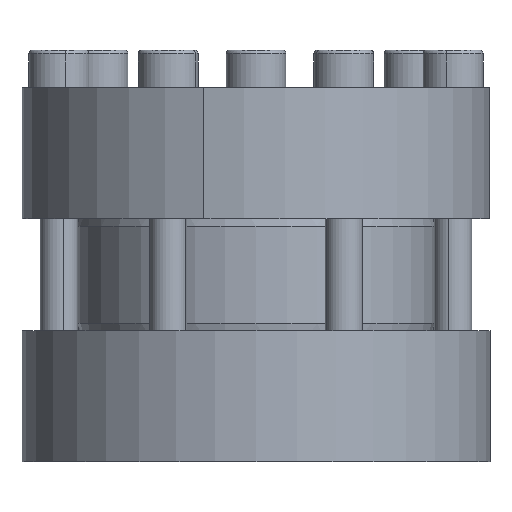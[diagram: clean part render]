
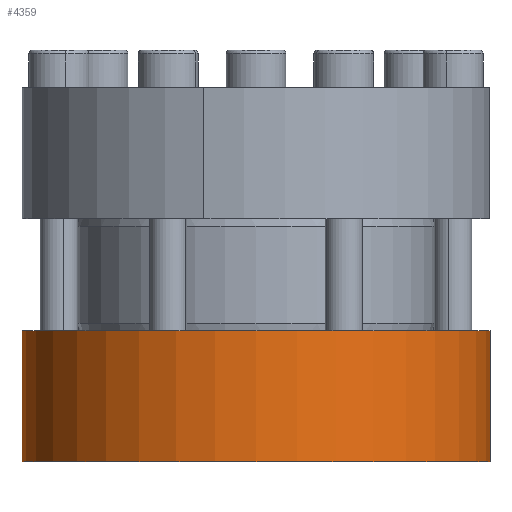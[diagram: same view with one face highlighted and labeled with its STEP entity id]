
A CAD part, front view. The second image highlights one B-rep face of the part: STEP entity #4359.
In plain terms, the highlighted cylindrical face has radius 62.5 mm (diameter 125 mm), a partial arc.
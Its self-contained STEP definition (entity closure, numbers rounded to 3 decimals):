
#67 = CARTESIAN_POINT ( 'NONE',  ( -62.5, 0., 33.007 ) ) ;
#442 = VERTEX_POINT ( 'NONE', #7789 ) ;
#649 = CARTESIAN_POINT ( 'NONE',  ( 62.5, 0., 33.007 ) ) ;
#668 = EDGE_LOOP ( 'NONE', ( #1017, #8893, #2978, #1400 ) ) ;
#748 = CARTESIAN_POINT ( 'NONE',  ( 0., 0., -1.993 ) ) ;
#1017 = ORIENTED_EDGE ( 'NONE', *, *, #7128, .F. ) ;
#1287 = LINE ( 'NONE', #649, #3205 ) ;
#1386 = EDGE_CURVE ( 'NONE', #4152, #6102, #10601, .T. ) ;
#1400 = ORIENTED_EDGE ( 'NONE', *, *, #1386, .T. ) ;
#1440 = CARTESIAN_POINT ( 'NONE',  ( 62.5, 0., -1.993 ) ) ;
#1488 = DIRECTION ( 'NONE',  ( 0., 0., -1. ) ) ;
#1518 = FACE_OUTER_BOUND ( 'NONE', #668, .T. ) ;
#1585 = DIRECTION ( 'NONE',  ( 1., 0., 0. ) ) ;
#2431 = CARTESIAN_POINT ( 'NONE',  ( -62.5, 0., 33.007 ) ) ;
#2624 = VERTEX_POINT ( 'NONE', #67 ) ;
#2668 = CYLINDRICAL_SURFACE ( 'NONE', #4265, 62.5 ) ;
#2978 = ORIENTED_EDGE ( 'NONE', *, *, #3091, .T. ) ;
#3091 = EDGE_CURVE ( 'NONE', #2624, #4152, #9282, .T. ) ;
#3205 = VECTOR ( 'NONE', #1488, 1000. ) ;
#4152 = VERTEX_POINT ( 'NONE', #9917 ) ;
#4265 = AXIS2_PLACEMENT_3D ( 'NONE', #10312, #5410, #8706 ) ;
#4359 = ADVANCED_FACE ( 'NONE', ( #1518 ), #2668, .T. ) ;
#4862 = CARTESIAN_POINT ( 'NONE',  ( 0., 0., 33.007 ) ) ;
#5410 = DIRECTION ( 'NONE',  ( 0., 0., -1. ) ) ;
#5719 = DIRECTION ( 'NONE',  ( 1., 0., 0. ) ) ;
#6102 = VERTEX_POINT ( 'NONE', #1440 ) ;
#6511 = DIRECTION ( 'NONE',  ( 0., 0., 1. ) ) ;
#6558 = DIRECTION ( 'NONE',  ( 0., 0., -1. ) ) ;
#6880 = AXIS2_PLACEMENT_3D ( 'NONE', #748, #6511, #1585 ) ;
#7107 = VECTOR ( 'NONE', #6558, 1000. ) ;
#7128 = EDGE_CURVE ( 'NONE', #442, #6102, #1287, .T. ) ;
#7263 = EDGE_CURVE ( 'NONE', #2624, #442, #10619, .T. ) ;
#7789 = CARTESIAN_POINT ( 'NONE',  ( 62.5, 0., 33.007 ) ) ;
#8706 = DIRECTION ( 'NONE',  ( -1., 0., 0. ) ) ;
#8893 = ORIENTED_EDGE ( 'NONE', *, *, #7263, .F. ) ;
#9282 = LINE ( 'NONE', #2431, #7107 ) ;
#9917 = CARTESIAN_POINT ( 'NONE',  ( -62.5, 0., -1.993 ) ) ;
#10312 = CARTESIAN_POINT ( 'NONE',  ( 0., 0., 33.007 ) ) ;
#10492 = AXIS2_PLACEMENT_3D ( 'NONE', #4862, #10595, #5719 ) ;
#10595 = DIRECTION ( 'NONE',  ( 0., 0., 1. ) ) ;
#10601 = CIRCLE ( 'NONE', #6880, 62.5 ) ;
#10619 = CIRCLE ( 'NONE', #10492, 62.5 ) ;
